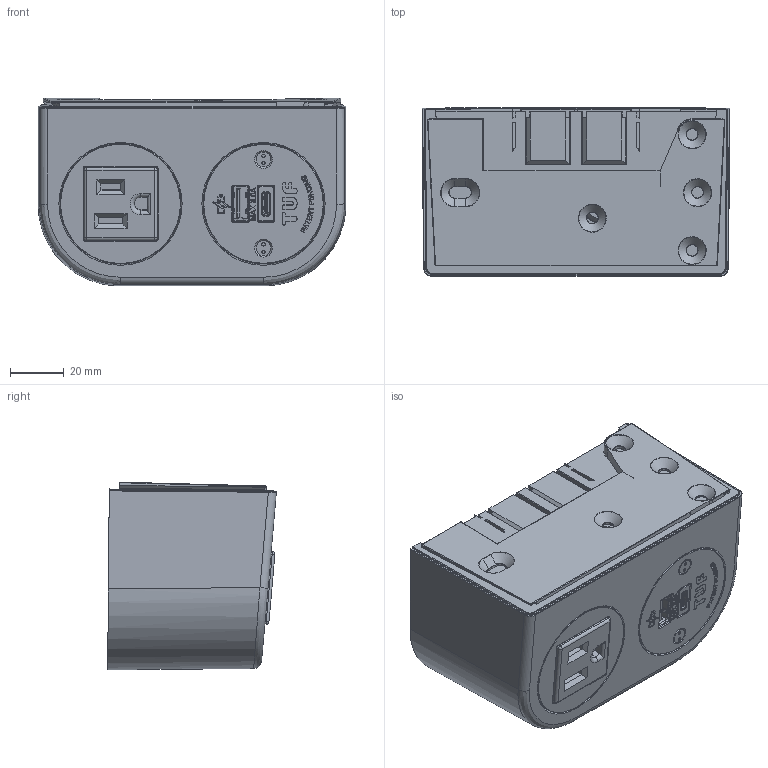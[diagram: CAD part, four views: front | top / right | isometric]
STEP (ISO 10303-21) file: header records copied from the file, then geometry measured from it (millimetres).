
FILE_DESCRIPTION((''),'2;1');
FILE_NAME('P:\Manufacturing\Autocad drawings\Inventor\blocks\Phase-block\Phase US1 TUF.stp','2021-01-19T08:40:24',('ScottReyner'),(''),'Autodesk Inventor 2012','Autodesk Inventor 2012','');
FILE_SCHEMA(('AUTOMOTIVE_DESIGN { 1 0 10303 214 1 1 1 1 }'));
Length unit declared in the file: inch
Products named in the file (1): Part217
Bounding box: 114.09 x 62.52 x 69.57 mm (x, y, z)
Volume: 288547.3 mm3; surface area: 83330.2 mm2
Topology: 4 solids, 35 shells, 5520 faces, 15127 edges, 9651 vertices
Faces by surface type: plane 3360, cylinder 1336, bspline 621, sphere 83, torus 74, cone 46
Full cylindrical faces by diameter (mm): 0.5 x1, 0.7 x2, 0.8 x2, 1.2 x4, 5.106 x2, 5.5 x2, 6.6 x2, 41 x2, 42.6 x1, 44 x1, 44.776 x1, 44.8 x1, 45.724 x2
Entity records: 236782 total; most frequent: CARTESIAN_POINT 93697, ORIENTED_EDGE 29946, DIRECTION 26749, EDGE_CURVE 14973, VECTOR 10615, LINE 10615, VERTEX_POINT 9627, AXIS2_PLACEMENT_3D 8067
